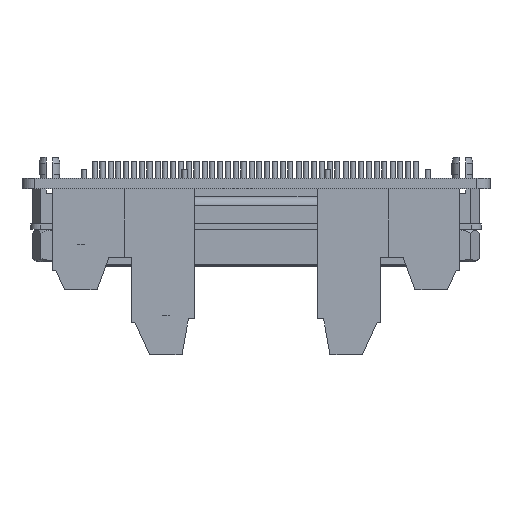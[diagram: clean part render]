
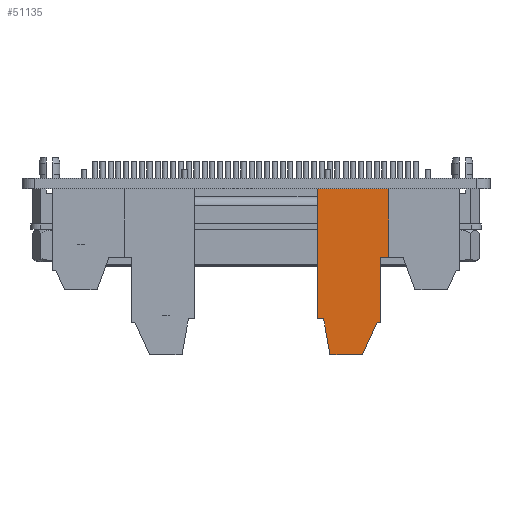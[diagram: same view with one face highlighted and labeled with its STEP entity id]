
A CAD part, front view. The second image highlights one B-rep face of the part: STEP entity #51135.
In plain terms, the highlighted planar face has unit normal (0, -1, 0).
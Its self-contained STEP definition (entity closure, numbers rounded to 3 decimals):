
#542=DIRECTION('',(1.,0.,0.));
#543=VECTOR('',#542,11.);
#544=CARTESIAN_POINT('',(-26.6,11.42,0.));
#545=LINE('',#544,#543);
#12695=DIRECTION('',(0.,0.,-1.));
#12696=VECTOR('',#12695,10.5);
#12697=CARTESIAN_POINT('',(-15.6,11.42,0.));
#12698=LINE('',#12697,#12696);
#12699=DIRECTION('',(-1.,0.,0.));
#12700=VECTOR('',#12699,1.274);
#12701=CARTESIAN_POINT('',(-15.6,11.42,-10.5));
#12702=LINE('',#12701,#12700);
#12703=DIRECTION('',(-0.411,0.,-0.911));
#12704=VECTOR('',#12703,5.486);
#12705=CARTESIAN_POINT('',(-17.374,11.42,-20.5));
#12706=LINE('',#12705,#12704);
#12707=DIRECTION('',(-0.174,0.,0.985));
#12708=VECTOR('',#12707,5.585);
#12709=CARTESIAN_POINT('',(-24.63,11.42,-25.5));
#12710=LINE('',#12709,#12708);
#12711=DIRECTION('',(0.,0.,1.));
#12712=VECTOR('',#12711,20.);
#12713=CARTESIAN_POINT('',(-26.6,11.42,-20.));
#12714=LINE('',#12713,#12712);
#13207=DIRECTION('',(0.,0.,1.));
#13208=VECTOR('',#13207,10.);
#13209=CARTESIAN_POINT('',(-16.874,11.42,-20.5));
#13210=LINE('',#13209,#13208);
#13219=DIRECTION('',(1.,0.,0.));
#13220=VECTOR('',#13219,0.5);
#13221=CARTESIAN_POINT('',(-17.374,11.42,-20.5));
#13222=LINE('',#13221,#13220);
#13235=DIRECTION('',(1.,0.,0.));
#13236=VECTOR('',#13235,5.);
#13237=CARTESIAN_POINT('',(-24.63,11.42,-25.5));
#13238=LINE('',#13237,#13236);
#13415=DIRECTION('',(1.,0.,0.));
#13416=VECTOR('',#13415,1.);
#13417=CARTESIAN_POINT('',(-26.6,11.42,-20.));
#13418=LINE('',#13417,#13416);
#20920=CARTESIAN_POINT('',(-15.6,11.42,-10.5));
#20921=CARTESIAN_POINT('',(-16.874,11.42,-10.5));
#20922=VERTEX_POINT('',#20920);
#20923=VERTEX_POINT('',#20921);
#21138=CARTESIAN_POINT('',(-26.6,11.42,-20.));
#21139=VERTEX_POINT('',#21138);
#21140=CARTESIAN_POINT('',(-16.874,11.42,-20.5));
#21141=VERTEX_POINT('',#21140);
#21270=CARTESIAN_POINT('',(-17.374,11.42,-20.5));
#21271=VERTEX_POINT('',#21270);
#21272=CARTESIAN_POINT('',(-19.63,11.42,-25.5));
#21273=VERTEX_POINT('',#21272);
#21274=CARTESIAN_POINT('',(-24.63,11.42,-25.5));
#21275=VERTEX_POINT('',#21274);
#21340=CARTESIAN_POINT('',(-25.6,11.42,-20.));
#21341=VERTEX_POINT('',#21340);
#24420=CARTESIAN_POINT('',(-15.6,11.42,0.));
#24421=VERTEX_POINT('',#24420);
#24430=CARTESIAN_POINT('',(-26.6,11.42,0.));
#24431=VERTEX_POINT('',#24430);
#51110=CARTESIAN_POINT('',(-21.1,11.42,-12.75));
#51111=DIRECTION('',(0.,1.,0.));
#51112=DIRECTION('',(1.,0.,0.));
#51113=AXIS2_PLACEMENT_3D('',#51110,#51111,#51112);
#51114=PLANE('',#51113);
#51115=ORIENTED_EDGE('',*,*,#25013,.T.);
#51117=ORIENTED_EDGE('',*,*,#51116,.T.);
#51119=ORIENTED_EDGE('',*,*,#51118,.T.);
#51121=ORIENTED_EDGE('',*,*,#51120,.F.);
#51123=ORIENTED_EDGE('',*,*,#51122,.F.);
#51125=ORIENTED_EDGE('',*,*,#51124,.T.);
#51127=ORIENTED_EDGE('',*,*,#51126,.F.);
#51129=ORIENTED_EDGE('',*,*,#51128,.T.);
#51131=ORIENTED_EDGE('',*,*,#51130,.F.);
#51132=ORIENTED_EDGE('',*,*,#51095,.T.);
#51133=EDGE_LOOP('',(#51115,#51117,#51119,#51121,#51123,#51125,#51127,#51129,
#51131,#51132));
#51134=FACE_OUTER_BOUND('',#51133,.F.);
#25013=EDGE_CURVE('',#24431,#24421,#545,.T.);
#51095=EDGE_CURVE('',#21139,#24431,#12714,.T.);
#51116=EDGE_CURVE('',#24421,#20922,#12698,.T.);
#51118=EDGE_CURVE('',#20922,#20923,#12702,.T.);
#51120=EDGE_CURVE('',#21141,#20923,#13210,.T.);
#51122=EDGE_CURVE('',#21271,#21141,#13222,.T.);
#51124=EDGE_CURVE('',#21271,#21273,#12706,.T.);
#51126=EDGE_CURVE('',#21275,#21273,#13238,.T.);
#51128=EDGE_CURVE('',#21275,#21341,#12710,.T.);
#51130=EDGE_CURVE('',#21139,#21341,#13418,.T.);
#51135=ADVANCED_FACE('',(#51134),#51114,.F.);
